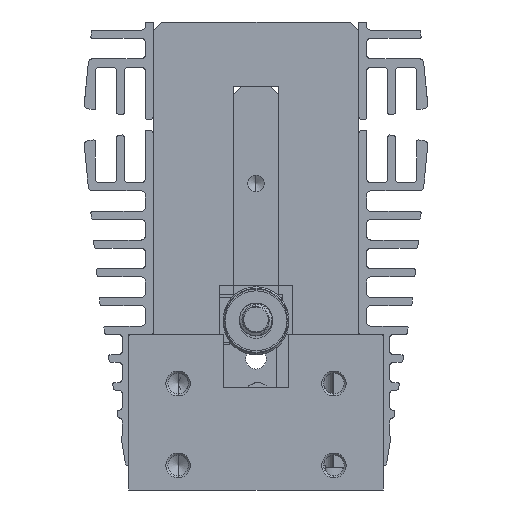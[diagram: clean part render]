
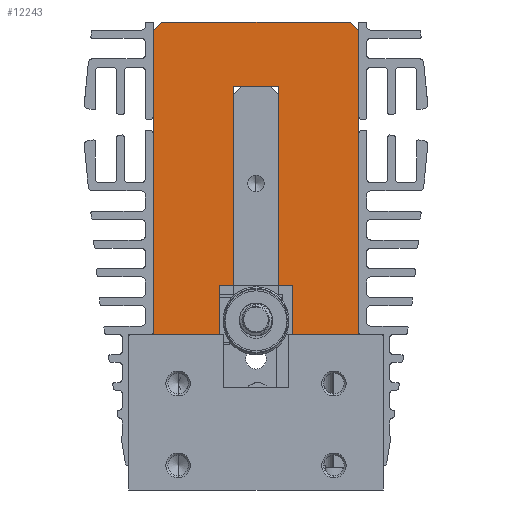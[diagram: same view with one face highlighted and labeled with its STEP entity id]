
A CAD part, front view. The second image highlights one B-rep face of the part: STEP entity #12243.
In plain terms, the highlighted planar face has unit normal (0, -1, 0) as drawn and (0, 0, 1) by its records, which use the part's own axes.
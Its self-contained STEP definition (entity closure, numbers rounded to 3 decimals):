
#171 = CARTESIAN_POINT ( 'NONE',  ( -6., 2.75, 100. ) ) ;
#413 = CARTESIAN_POINT ( 'NONE',  ( -6., -4.5, 100. ) ) ;
#672 = LINE ( 'NONE', #10432, #6393 ) ;
#788 = EDGE_CURVE ( 'NONE', #2541, #27481, #6014, .T. ) ;
#1044 = ORIENTED_EDGE ( 'NONE', *, *, #4111, .T. ) ;
#1050 = DIRECTION ( 'NONE',  ( 0., 1., 0. ) ) ;
#1059 = CARTESIAN_POINT ( 'NONE',  ( -6., -4.5, 100. ) ) ;
#1326 = VECTOR ( 'NONE', #28137, 1000. ) ;
#1504 = CARTESIAN_POINT ( 'NONE',  ( 0., -4.5, 100. ) ) ;
#1675 = DIRECTION ( 'NONE',  ( 0., 1., 0. ) ) ;
#1871 = EDGE_CURVE ( 'NONE', #7178, #26963, #12772, .T. ) ;
#1996 = LINE ( 'NONE', #24314, #1326 ) ;
#2263 = VECTOR ( 'NONE', #16297, 1000. ) ;
#2412 = FACE_OUTER_BOUND ( 'NONE', #14561, .T. ) ;
#2541 = VERTEX_POINT ( 'NONE', #24706 ) ;
#2777 = LINE ( 'NONE', #15707, #25273 ) ;
#3146 = ORIENTED_EDGE ( 'NONE', *, *, #28196, .T. ) ;
#4111 = EDGE_CURVE ( 'NONE', #14033, #21851, #25328, .T. ) ;
#5507 = CARTESIAN_POINT ( 'NONE',  ( 0., -12.5, 100. ) ) ;
#6014 = LINE ( 'NONE', #15578, #16981 ) ;
#6393 = VECTOR ( 'NONE', #15731, 1000. ) ;
#6575 = ORIENTED_EDGE ( 'NONE', *, *, #11893, .T. ) ;
#6603 = LINE ( 'NONE', #21836, #17591 ) ;
#7107 = CARTESIAN_POINT ( 'NONE',  ( -37.1, -12.5, 100. ) ) ;
#7178 = VERTEX_POINT ( 'NONE', #7107 ) ;
#7242 = CARTESIAN_POINT ( 'NONE',  ( -30.2, 2.75, 100. ) ) ;
#7442 = EDGE_CURVE ( 'NONE', #22178, #25874, #23765, .T. ) ;
#7539 = CARTESIAN_POINT ( 'NONE',  ( -38.1, 11.5, 100. ) ) ;
#7604 = ORIENTED_EDGE ( 'NONE', *, *, #25118, .F. ) ;
#7795 = DIRECTION ( 'NONE',  ( 0.707, -0.707, 0. ) ) ;
#7861 = LINE ( 'NONE', #25414, #25969 ) ;
#8024 = LINE ( 'NONE', #11896, #2263 ) ;
#8282 = CARTESIAN_POINT ( 'NONE',  ( -6., 2.75, 100. ) ) ;
#8708 = DIRECTION ( 'NONE',  ( 1., 0., 0. ) ) ;
#8844 = VECTOR ( 'NONE', #23392, 1000. ) ;
#9014 = VERTEX_POINT ( 'NONE', #7539 ) ;
#10326 = LINE ( 'NONE', #16311, #21200 ) ;
#10432 = CARTESIAN_POINT ( 'NONE',  ( -30.2, 2.75, 100. ) ) ;
#11076 = DIRECTION ( 'NONE',  ( 0., 1., 0. ) ) ;
#11361 = CARTESIAN_POINT ( 'NONE',  ( -38.1, -12.5, 100. ) ) ;
#11372 = EDGE_CURVE ( 'NONE', #21314, #9014, #7861, .T. ) ;
#11873 = EDGE_CURVE ( 'NONE', #23609, #7178, #2777, .T. ) ;
#11893 = EDGE_CURVE ( 'NONE', #25874, #16680, #27318, .T. ) ;
#11896 = CARTESIAN_POINT ( 'NONE',  ( 0., -12.5, 100. ) ) ;
#12243 = ADVANCED_FACE ( 'NONE', ( #2412 ), #13638, .T. ) ;
#12772 = LINE ( 'NONE', #26089, #23648 ) ;
#12786 = DIRECTION ( 'NONE',  ( 1., 0., 0. ) ) ;
#13047 = VECTOR ( 'NONE', #1675, 1000. ) ;
#13638 = PLANE ( 'NONE',  #17039 ) ;
#13678 = CARTESIAN_POINT ( 'NONE',  ( -38.1, -11.5, 100. ) ) ;
#13694 = VECTOR ( 'NONE', #11076, 1000. ) ;
#13739 = DIRECTION ( 'NONE',  ( -1., 0., 0. ) ) ;
#14033 = VERTEX_POINT ( 'NONE', #8282 ) ;
#14059 = CARTESIAN_POINT ( 'NONE',  ( 0., 12.5, 100. ) ) ;
#14317 = CARTESIAN_POINT ( 'NONE',  ( 0., -4.5, 100. ) ) ;
#14336 = DIRECTION ( 'NONE',  ( 1., 0., 0. ) ) ;
#14403 = ORIENTED_EDGE ( 'NONE', *, *, #14638, .F. ) ;
#14561 = EDGE_LOOP ( 'NONE', ( #14403, #18689, #23439, #14807, #24349, #6575, #17064, #3146, #17794, #1044, #26621, #19617, #7604, #16381 ) ) ;
#14638 = EDGE_CURVE ( 'NONE', #23609, #9014, #26535, .T. ) ;
#14807 = ORIENTED_EDGE ( 'NONE', *, *, #16104, .T. ) ;
#14872 = DIRECTION ( 'NONE',  ( -0.707, -0.707, 0. ) ) ;
#15578 = CARTESIAN_POINT ( 'NONE',  ( 0., -12.5, 100. ) ) ;
#15707 = CARTESIAN_POINT ( 'NONE',  ( -37.6, -12., 100. ) ) ;
#15731 = DIRECTION ( 'NONE',  ( 1., 0., 0. ) ) ;
#16104 = EDGE_CURVE ( 'NONE', #26963, #22178, #8024, .T. ) ;
#16297 = DIRECTION ( 'NONE',  ( 0., 1., 0. ) ) ;
#16311 = CARTESIAN_POINT ( 'NONE',  ( -38.1, 12.5, 100. ) ) ;
#16381 = ORIENTED_EDGE ( 'NONE', *, *, #11372, .T. ) ;
#16680 = VERTEX_POINT ( 'NONE', #21928 ) ;
#16737 = EDGE_CURVE ( 'NONE', #21851, #2541, #6603, .T. ) ;
#16981 = VECTOR ( 'NONE', #1050, 1000. ) ;
#17039 = AXIS2_PLACEMENT_3D ( 'NONE', #22785, #23344, #12786 ) ;
#17064 = ORIENTED_EDGE ( 'NONE', *, *, #20493, .T. ) ;
#17591 = VECTOR ( 'NONE', #8708, 1000. ) ;
#17794 = ORIENTED_EDGE ( 'NONE', *, *, #20016, .T. ) ;
#18689 = ORIENTED_EDGE ( 'NONE', *, *, #11873, .T. ) ;
#19040 = CARTESIAN_POINT ( 'NONE',  ( -37.1, 12.5, 100. ) ) ;
#19617 = ORIENTED_EDGE ( 'NONE', *, *, #788, .T. ) ;
#20016 = EDGE_CURVE ( 'NONE', #27069, #14033, #672, .T. ) ;
#20493 = EDGE_CURVE ( 'NONE', #16680, #26475, #1996, .T. ) ;
#20727 = VECTOR ( 'NONE', #27376, 1000. ) ;
#21200 = VECTOR ( 'NONE', #25543, 1000. ) ;
#21314 = VERTEX_POINT ( 'NONE', #19040 ) ;
#21824 = CARTESIAN_POINT ( 'NONE',  ( -30.2, -2.75, 100. ) ) ;
#21836 = CARTESIAN_POINT ( 'NONE',  ( -6., 4.5, 100. ) ) ;
#21851 = VERTEX_POINT ( 'NONE', #25103 ) ;
#21928 = CARTESIAN_POINT ( 'NONE',  ( -6., -2.75, 100. ) ) ;
#22126 = CARTESIAN_POINT ( 'NONE',  ( -30.2, -2.75, 100. ) ) ;
#22178 = VERTEX_POINT ( 'NONE', #1504 ) ;
#22785 = CARTESIAN_POINT ( 'NONE',  ( -38.1, -12.5, 100. ) ) ;
#23058 = VECTOR ( 'NONE', #13739, 1000. ) ;
#23344 = DIRECTION ( 'NONE',  ( 0., 0., 1. ) ) ;
#23392 = DIRECTION ( 'NONE',  ( 0., 1., 0. ) ) ;
#23439 = ORIENTED_EDGE ( 'NONE', *, *, #1871, .T. ) ;
#23609 = VERTEX_POINT ( 'NONE', #13678 ) ;
#23648 = VECTOR ( 'NONE', #14336, 1000. ) ;
#23765 = LINE ( 'NONE', #14317, #23058 ) ;
#24314 = CARTESIAN_POINT ( 'NONE',  ( -6., -2.75, 100. ) ) ;
#24349 = ORIENTED_EDGE ( 'NONE', *, *, #7442, .T. ) ;
#24706 = CARTESIAN_POINT ( 'NONE',  ( 0., 4.5, 100. ) ) ;
#25103 = CARTESIAN_POINT ( 'NONE',  ( -6., 4.5, 100. ) ) ;
#25118 = EDGE_CURVE ( 'NONE', #21314, #27481, #10326, .T. ) ;
#25273 = VECTOR ( 'NONE', #7795, 1000. ) ;
#25328 = LINE ( 'NONE', #171, #13047 ) ;
#25414 = CARTESIAN_POINT ( 'NONE',  ( -50.1, -0.5, 100. ) ) ;
#25543 = DIRECTION ( 'NONE',  ( 1., 0., 0. ) ) ;
#25874 = VERTEX_POINT ( 'NONE', #1059 ) ;
#25969 = VECTOR ( 'NONE', #14872, 1000. ) ;
#26089 = CARTESIAN_POINT ( 'NONE',  ( -38.1, -12.5, 100. ) ) ;
#26256 = LINE ( 'NONE', #21824, #8844 ) ;
#26475 = VERTEX_POINT ( 'NONE', #22126 ) ;
#26535 = LINE ( 'NONE', #11361, #20727 ) ;
#26621 = ORIENTED_EDGE ( 'NONE', *, *, #16737, .T. ) ;
#26963 = VERTEX_POINT ( 'NONE', #5507 ) ;
#27069 = VERTEX_POINT ( 'NONE', #7242 ) ;
#27318 = LINE ( 'NONE', #413, #13694 ) ;
#27376 = DIRECTION ( 'NONE',  ( 0., 1., 0. ) ) ;
#27481 = VERTEX_POINT ( 'NONE', #14059 ) ;
#28137 = DIRECTION ( 'NONE',  ( -1., 0., 0. ) ) ;
#28196 = EDGE_CURVE ( 'NONE', #26475, #27069, #26256, .T. ) ;
